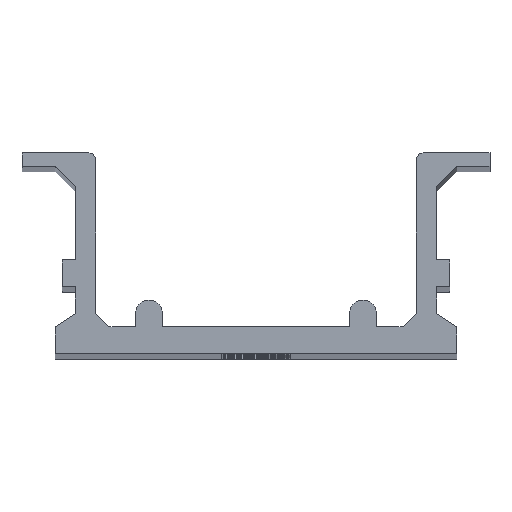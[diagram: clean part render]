
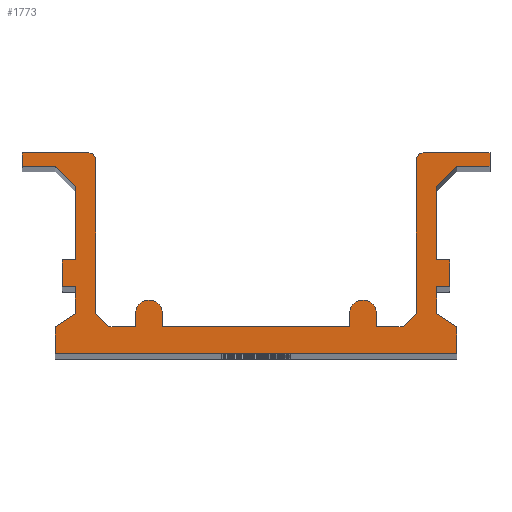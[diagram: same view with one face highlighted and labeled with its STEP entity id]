
A CAD part, top view. The second image highlights one B-rep face of the part: STEP entity #1773.
In plain terms, the highlighted planar face has unit normal (0, 0, 1).
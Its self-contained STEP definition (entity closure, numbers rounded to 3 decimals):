
#79=CIRCLE('',#1925,0.5);
#80=CIRCLE('',#1926,0.5);
#81=CIRCLE('',#1927,1.);
#82=CIRCLE('',#1928,1.);
#163=FACE_OUTER_BOUND('',#251,.T.);
#251=EDGE_LOOP('',(#1317,#1318,#1319,#1320,#1321,#1322,#1323,#1324,#1325,
#1326,#1327,#1328,#1329,#1330,#1331,#1332,#1333,#1334,#1335,#1336,#1337,
#1338,#1339,#1340,#1341,#1342,#1343,#1344,#1345,#1346,#1347,#1348,#1349,
#1350,#1351,#1352,#1353,#1354));
#403=LINE('',#2724,#605);
#404=LINE('',#2726,#606);
#405=LINE('',#2728,#607);
#406=LINE('',#2732,#608);
#407=LINE('',#2734,#609);
#408=LINE('',#2736,#610);
#409=LINE('',#2738,#611);
#410=LINE('',#2740,#612);
#411=LINE('',#2742,#613);
#412=LINE('',#2744,#614);
#413=LINE('',#2746,#615);
#414=LINE('',#2748,#616);
#415=LINE('',#2750,#617);
#416=LINE('',#2752,#618);
#417=LINE('',#2754,#619);
#418=LINE('',#2756,#620);
#419=LINE('',#2758,#621);
#420=LINE('',#2760,#622);
#421=LINE('',#2762,#623);
#422=LINE('',#2764,#624);
#423=LINE('',#2766,#625);
#424=LINE('',#2768,#626);
#425=LINE('',#2770,#627);
#426=LINE('',#2772,#628);
#427=LINE('',#2774,#629);
#428=LINE('',#2776,#630);
#429=LINE('',#2780,#631);
#430=LINE('',#2782,#632);
#431=LINE('',#2784,#633);
#432=LINE('',#2786,#634);
#433=LINE('',#2790,#635);
#434=LINE('',#2792,#636);
#435=LINE('',#2794,#637);
#436=LINE('',#2797,#638);
#605=VECTOR('',#2232,10.);
#606=VECTOR('',#2233,10.);
#607=VECTOR('',#2234,10.);
#608=VECTOR('',#2237,10.);
#609=VECTOR('',#2238,10.);
#610=VECTOR('',#2239,10.);
#611=VECTOR('',#2240,10.);
#612=VECTOR('',#2241,10.);
#613=VECTOR('',#2242,10.);
#614=VECTOR('',#2243,10.);
#615=VECTOR('',#2244,10.);
#616=VECTOR('',#2245,10.);
#617=VECTOR('',#2246,10.);
#618=VECTOR('',#2247,10.);
#619=VECTOR('',#2248,10.);
#620=VECTOR('',#2249,10.);
#621=VECTOR('',#2250,10.);
#622=VECTOR('',#2251,10.);
#623=VECTOR('',#2252,10.);
#624=VECTOR('',#2253,10.);
#625=VECTOR('',#2254,10.);
#626=VECTOR('',#2255,10.);
#627=VECTOR('',#2256,10.);
#628=VECTOR('',#2257,10.);
#629=VECTOR('',#2258,10.);
#630=VECTOR('',#2259,10.);
#631=VECTOR('',#2262,10.);
#632=VECTOR('',#2263,10.);
#633=VECTOR('',#2264,10.);
#634=VECTOR('',#2265,10.);
#635=VECTOR('',#2268,10.);
#636=VECTOR('',#2269,10.);
#637=VECTOR('',#2270,10.);
#638=VECTOR('',#2273,10.);
#807=VERTEX_POINT('',#2722);
#808=VERTEX_POINT('',#2723);
#809=VERTEX_POINT('',#2725);
#810=VERTEX_POINT('',#2727);
#811=VERTEX_POINT('',#2729);
#812=VERTEX_POINT('',#2731);
#813=VERTEX_POINT('',#2733);
#814=VERTEX_POINT('',#2735);
#815=VERTEX_POINT('',#2737);
#816=VERTEX_POINT('',#2739);
#817=VERTEX_POINT('',#2741);
#818=VERTEX_POINT('',#2743);
#819=VERTEX_POINT('',#2745);
#820=VERTEX_POINT('',#2747);
#821=VERTEX_POINT('',#2749);
#822=VERTEX_POINT('',#2751);
#823=VERTEX_POINT('',#2753);
#824=VERTEX_POINT('',#2755);
#825=VERTEX_POINT('',#2757);
#826=VERTEX_POINT('',#2759);
#827=VERTEX_POINT('',#2761);
#828=VERTEX_POINT('',#2763);
#829=VERTEX_POINT('',#2765);
#830=VERTEX_POINT('',#2767);
#831=VERTEX_POINT('',#2769);
#832=VERTEX_POINT('',#2771);
#833=VERTEX_POINT('',#2773);
#834=VERTEX_POINT('',#2775);
#835=VERTEX_POINT('',#2777);
#836=VERTEX_POINT('',#2779);
#837=VERTEX_POINT('',#2781);
#838=VERTEX_POINT('',#2783);
#839=VERTEX_POINT('',#2785);
#840=VERTEX_POINT('',#2787);
#841=VERTEX_POINT('',#2789);
#842=VERTEX_POINT('',#2791);
#843=VERTEX_POINT('',#2793);
#844=VERTEX_POINT('',#2795);
#1019=EDGE_CURVE('',#807,#808,#403,.T.);
#1020=EDGE_CURVE('',#808,#809,#404,.T.);
#1021=EDGE_CURVE('',#809,#810,#405,.T.);
#1022=EDGE_CURVE('',#810,#811,#79,.T.);
#1023=EDGE_CURVE('',#811,#812,#406,.T.);
#1024=EDGE_CURVE('',#812,#813,#407,.T.);
#1025=EDGE_CURVE('',#813,#814,#408,.T.);
#1026=EDGE_CURVE('',#814,#815,#409,.T.);
#1027=EDGE_CURVE('',#815,#816,#410,.T.);
#1028=EDGE_CURVE('',#816,#817,#411,.T.);
#1029=EDGE_CURVE('',#817,#818,#412,.T.);
#1030=EDGE_CURVE('',#818,#819,#413,.T.);
#1031=EDGE_CURVE('',#819,#820,#414,.T.);
#1032=EDGE_CURVE('',#820,#821,#415,.T.);
#1033=EDGE_CURVE('',#821,#822,#416,.T.);
#1034=EDGE_CURVE('',#822,#823,#417,.T.);
#1035=EDGE_CURVE('',#823,#824,#418,.T.);
#1036=EDGE_CURVE('',#824,#825,#419,.T.);
#1037=EDGE_CURVE('',#825,#826,#420,.T.);
#1038=EDGE_CURVE('',#826,#827,#421,.T.);
#1039=EDGE_CURVE('',#827,#828,#422,.T.);
#1040=EDGE_CURVE('',#828,#829,#423,.T.);
#1041=EDGE_CURVE('',#829,#830,#424,.T.);
#1042=EDGE_CURVE('',#830,#831,#425,.T.);
#1043=EDGE_CURVE('',#831,#832,#426,.T.);
#1044=EDGE_CURVE('',#832,#833,#427,.T.);
#1045=EDGE_CURVE('',#833,#834,#428,.T.);
#1046=EDGE_CURVE('',#834,#835,#80,.T.);
#1047=EDGE_CURVE('',#835,#836,#429,.T.);
#1048=EDGE_CURVE('',#836,#837,#430,.T.);
#1049=EDGE_CURVE('',#837,#838,#431,.T.);
#1050=EDGE_CURVE('',#838,#839,#432,.T.);
#1051=EDGE_CURVE('',#839,#840,#81,.T.);
#1052=EDGE_CURVE('',#840,#841,#433,.T.);
#1053=EDGE_CURVE('',#841,#842,#434,.T.);
#1054=EDGE_CURVE('',#842,#843,#435,.T.);
#1055=EDGE_CURVE('',#843,#844,#82,.T.);
#1056=EDGE_CURVE('',#844,#807,#436,.T.);
#1317=ORIENTED_EDGE('',*,*,#1019,.T.);
#1318=ORIENTED_EDGE('',*,*,#1020,.T.);
#1319=ORIENTED_EDGE('',*,*,#1021,.T.);
#1320=ORIENTED_EDGE('',*,*,#1022,.T.);
#1321=ORIENTED_EDGE('',*,*,#1023,.T.);
#1322=ORIENTED_EDGE('',*,*,#1024,.T.);
#1323=ORIENTED_EDGE('',*,*,#1025,.T.);
#1324=ORIENTED_EDGE('',*,*,#1026,.T.);
#1325=ORIENTED_EDGE('',*,*,#1027,.T.);
#1326=ORIENTED_EDGE('',*,*,#1028,.T.);
#1327=ORIENTED_EDGE('',*,*,#1029,.T.);
#1328=ORIENTED_EDGE('',*,*,#1030,.T.);
#1329=ORIENTED_EDGE('',*,*,#1031,.T.);
#1330=ORIENTED_EDGE('',*,*,#1032,.T.);
#1331=ORIENTED_EDGE('',*,*,#1033,.T.);
#1332=ORIENTED_EDGE('',*,*,#1034,.T.);
#1333=ORIENTED_EDGE('',*,*,#1035,.T.);
#1334=ORIENTED_EDGE('',*,*,#1036,.T.);
#1335=ORIENTED_EDGE('',*,*,#1037,.T.);
#1336=ORIENTED_EDGE('',*,*,#1038,.T.);
#1337=ORIENTED_EDGE('',*,*,#1039,.T.);
#1338=ORIENTED_EDGE('',*,*,#1040,.T.);
#1339=ORIENTED_EDGE('',*,*,#1041,.T.);
#1340=ORIENTED_EDGE('',*,*,#1042,.T.);
#1341=ORIENTED_EDGE('',*,*,#1043,.T.);
#1342=ORIENTED_EDGE('',*,*,#1044,.T.);
#1343=ORIENTED_EDGE('',*,*,#1045,.T.);
#1344=ORIENTED_EDGE('',*,*,#1046,.T.);
#1345=ORIENTED_EDGE('',*,*,#1047,.T.);
#1346=ORIENTED_EDGE('',*,*,#1048,.T.);
#1347=ORIENTED_EDGE('',*,*,#1049,.T.);
#1348=ORIENTED_EDGE('',*,*,#1050,.T.);
#1349=ORIENTED_EDGE('',*,*,#1051,.T.);
#1350=ORIENTED_EDGE('',*,*,#1052,.T.);
#1351=ORIENTED_EDGE('',*,*,#1053,.T.);
#1352=ORIENTED_EDGE('',*,*,#1054,.T.);
#1353=ORIENTED_EDGE('',*,*,#1055,.T.);
#1354=ORIENTED_EDGE('',*,*,#1056,.T.);
#1693=PLANE('',#1924);
#1773=ADVANCED_FACE('',(#163),#1693,.T.);
#1924=AXIS2_PLACEMENT_3D('',#2721,#2230,#2231);
#1925=AXIS2_PLACEMENT_3D('',#2730,#2235,#2236);
#1926=AXIS2_PLACEMENT_3D('',#2778,#2260,#2261);
#1927=AXIS2_PLACEMENT_3D('',#2788,#2266,#2267);
#1928=AXIS2_PLACEMENT_3D('',#2796,#2271,#2272);
#2230=DIRECTION('center_axis',(0.,0.,1.));
#2231=DIRECTION('ref_axis',(1.,0.,0.));
#2232=DIRECTION('',(-1.,0.,0.));
#2233=DIRECTION('',(-0.707,0.707,0.));
#2234=DIRECTION('',(0.,1.,0.));
#2235=DIRECTION('center_axis',(0.,0.,1.));
#2236=DIRECTION('ref_axis',(1.,0.,0.));
#2237=DIRECTION('',(-1.,0.,0.));
#2238=DIRECTION('',(0.,-1.,0.));
#2239=DIRECTION('',(1.,0.,0.));
#2240=DIRECTION('',(0.707,-0.707,0.));
#2241=DIRECTION('',(0.,-1.,0.));
#2242=DIRECTION('',(-1.,0.,0.));
#2243=DIRECTION('',(0.,-1.,0.));
#2244=DIRECTION('',(1.,0.,0.));
#2245=DIRECTION('',(0.,-1.,0.));
#2246=DIRECTION('',(-0.832,-0.555,0.));
#2247=DIRECTION('',(0.,-1.,0.));
#2248=DIRECTION('',(1.,0.,0.));
#2249=DIRECTION('',(0.,1.,0.));
#2250=DIRECTION('',(-0.832,0.555,0.));
#2251=DIRECTION('',(0.,1.,0.));
#2252=DIRECTION('',(1.,0.,0.));
#2253=DIRECTION('',(0.,1.,0.));
#2254=DIRECTION('',(-1.,0.,0.));
#2255=DIRECTION('',(0.,1.,0.));
#2256=DIRECTION('',(0.707,0.707,0.));
#2257=DIRECTION('',(1.,0.,0.));
#2258=DIRECTION('',(0.,1.,0.));
#2259=DIRECTION('',(-1.,0.,0.));
#2260=DIRECTION('center_axis',(0.,0.,1.));
#2261=DIRECTION('ref_axis',(0.,1.,0.));
#2262=DIRECTION('',(0.,-1.,0.));
#2263=DIRECTION('',(-0.707,-0.707,0.));
#2264=DIRECTION('',(-1.,0.,0.));
#2265=DIRECTION('',(0.,1.,0.));
#2266=DIRECTION('center_axis',(0.,0.,1.));
#2267=DIRECTION('ref_axis',(1.,0.,0.));
#2268=DIRECTION('',(0.,-1.,0.));
#2269=DIRECTION('',(-1.,0.,0.));
#2270=DIRECTION('',(0.,1.,0.));
#2271=DIRECTION('center_axis',(0.,0.,1.));
#2272=DIRECTION('ref_axis',(1.,0.,0.));
#2273=DIRECTION('',(0.,-1.,0.));
#2721=CARTESIAN_POINT('Origin',(0.,7.5,237.));
#2722=CARTESIAN_POINT('',(-9.,2.,237.));
#2723=CARTESIAN_POINT('',(-11.,2.,237.));
#2724=CARTESIAN_POINT('',(-9.,2.,237.));
#2725=CARTESIAN_POINT('',(-12.,3.,237.));
#2726=CARTESIAN_POINT('',(-11.,2.,237.));
#2727=CARTESIAN_POINT('',(-12.,14.5,237.));
#2728=CARTESIAN_POINT('',(-12.,3.,237.));
#2729=CARTESIAN_POINT('',(-12.5,15.,237.));
#2730=CARTESIAN_POINT('Origin',(-12.5,14.5,237.));
#2731=CARTESIAN_POINT('',(-17.5,15.,237.));
#2732=CARTESIAN_POINT('',(-12.5,15.,237.));
#2733=CARTESIAN_POINT('',(-17.5,14.,237.));
#2734=CARTESIAN_POINT('',(-17.5,15.,237.));
#2735=CARTESIAN_POINT('',(-15.,14.,237.));
#2736=CARTESIAN_POINT('',(-17.5,14.,237.));
#2737=CARTESIAN_POINT('',(-13.5,12.5,237.));
#2738=CARTESIAN_POINT('',(-15.,14.,237.));
#2739=CARTESIAN_POINT('',(-13.5,7.,237.));
#2740=CARTESIAN_POINT('',(-13.5,12.5,237.));
#2741=CARTESIAN_POINT('',(-14.5,7.,237.));
#2742=CARTESIAN_POINT('',(-13.5,7.,237.));
#2743=CARTESIAN_POINT('',(-14.5,5.,237.));
#2744=CARTESIAN_POINT('',(-14.5,7.,237.));
#2745=CARTESIAN_POINT('',(-13.5,5.,237.));
#2746=CARTESIAN_POINT('',(-14.5,5.,237.));
#2747=CARTESIAN_POINT('',(-13.5,3.,237.));
#2748=CARTESIAN_POINT('',(-13.5,5.,237.));
#2749=CARTESIAN_POINT('',(-15.,2.,237.));
#2750=CARTESIAN_POINT('',(-13.5,3.,237.));
#2751=CARTESIAN_POINT('',(-15.,0.,237.));
#2752=CARTESIAN_POINT('',(-15.,2.,237.));
#2753=CARTESIAN_POINT('',(15.,0.,237.));
#2754=CARTESIAN_POINT('',(-15.,0.,237.));
#2755=CARTESIAN_POINT('',(15.,2.,237.));
#2756=CARTESIAN_POINT('',(15.,0.,237.));
#2757=CARTESIAN_POINT('',(13.5,3.,237.));
#2758=CARTESIAN_POINT('',(15.,2.,237.));
#2759=CARTESIAN_POINT('',(13.5,5.,237.));
#2760=CARTESIAN_POINT('',(13.5,3.,237.));
#2761=CARTESIAN_POINT('',(14.5,5.,237.));
#2762=CARTESIAN_POINT('',(13.5,5.,237.));
#2763=CARTESIAN_POINT('',(14.5,7.,237.));
#2764=CARTESIAN_POINT('',(14.5,5.,237.));
#2765=CARTESIAN_POINT('',(13.5,7.,237.));
#2766=CARTESIAN_POINT('',(14.5,7.,237.));
#2767=CARTESIAN_POINT('',(13.5,12.5,237.));
#2768=CARTESIAN_POINT('',(13.5,7.,237.));
#2769=CARTESIAN_POINT('',(15.,14.,237.));
#2770=CARTESIAN_POINT('',(13.5,12.5,237.));
#2771=CARTESIAN_POINT('',(17.5,14.,237.));
#2772=CARTESIAN_POINT('',(15.,14.,237.));
#2773=CARTESIAN_POINT('',(17.5,15.,237.));
#2774=CARTESIAN_POINT('',(17.5,14.,237.));
#2775=CARTESIAN_POINT('',(12.5,15.,237.));
#2776=CARTESIAN_POINT('',(17.5,15.,237.));
#2777=CARTESIAN_POINT('',(12.,14.5,237.));
#2778=CARTESIAN_POINT('Origin',(12.5,14.5,237.));
#2779=CARTESIAN_POINT('',(12.,3.,237.));
#2780=CARTESIAN_POINT('',(12.,14.5,237.));
#2781=CARTESIAN_POINT('',(11.,2.,237.));
#2782=CARTESIAN_POINT('',(12.,3.,237.));
#2783=CARTESIAN_POINT('',(9.,2.,237.));
#2784=CARTESIAN_POINT('',(11.,2.,237.));
#2785=CARTESIAN_POINT('',(9.,3.,237.));
#2786=CARTESIAN_POINT('',(9.,2.,237.));
#2787=CARTESIAN_POINT('',(7.,3.,237.));
#2788=CARTESIAN_POINT('Origin',(8.,3.,237.));
#2789=CARTESIAN_POINT('',(7.,2.,237.));
#2790=CARTESIAN_POINT('',(7.,3.,237.));
#2791=CARTESIAN_POINT('',(-7.,2.,237.));
#2792=CARTESIAN_POINT('',(7.,2.,237.));
#2793=CARTESIAN_POINT('',(-7.,3.,237.));
#2794=CARTESIAN_POINT('',(-7.,2.,237.));
#2795=CARTESIAN_POINT('',(-9.,3.,237.));
#2796=CARTESIAN_POINT('Origin',(-8.,3.,237.));
#2797=CARTESIAN_POINT('',(-9.,3.,237.));
